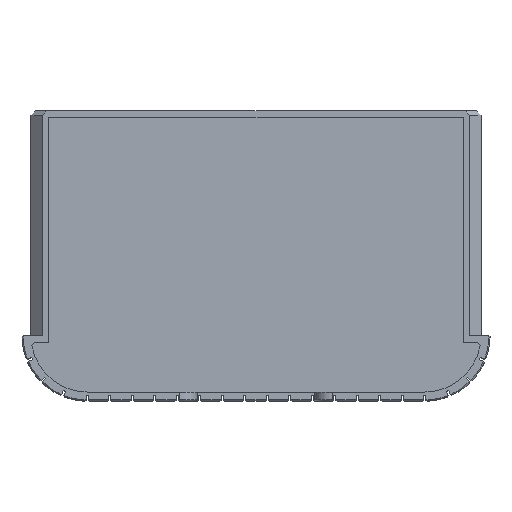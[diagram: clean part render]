
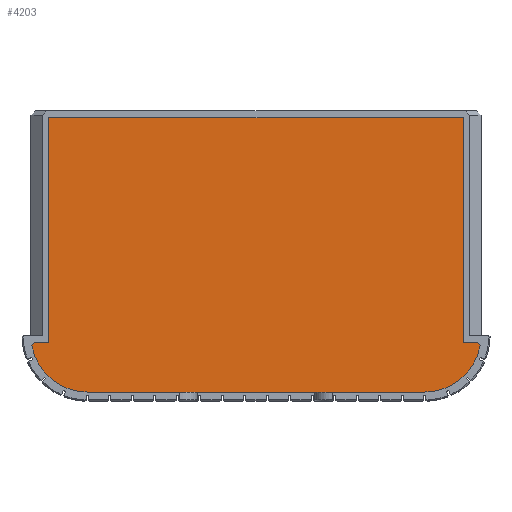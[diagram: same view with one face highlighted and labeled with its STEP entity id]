
A CAD part, top view. The second image highlights one B-rep face of the part: STEP entity #4203.
In plain terms, the highlighted planar face has unit normal (0, 0, 1).
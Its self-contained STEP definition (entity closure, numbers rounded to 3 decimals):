
#151=CIRCLE('',#4494,25.);
#152=CIRCLE('',#4496,25.);
#199=FACE_OUTER_BOUND('',#441,.T.);
#441=EDGE_LOOP('',(#2987,#2988,#2989,#2990,#2991,#2992,#2993,#2994,#2995,
#2996,#2997,#2998));
#857=LINE('',#6326,#1371);
#863=LINE('',#6339,#1377);
#864=LINE('',#6341,#1378);
#865=LINE('',#6343,#1379);
#866=LINE('',#6345,#1380);
#867=LINE('',#6347,#1381);
#868=LINE('',#6349,#1382);
#869=LINE('',#6351,#1383);
#870=LINE('',#6353,#1384);
#871=LINE('',#6356,#1385);
#1371=VECTOR('',#5053,10.);
#1377=VECTOR('',#5065,10.);
#1378=VECTOR('',#5066,10.);
#1379=VECTOR('',#5067,10.);
#1380=VECTOR('',#5068,10.);
#1381=VECTOR('',#5069,10.);
#1382=VECTOR('',#5070,10.);
#1383=VECTOR('',#5071,10.);
#1384=VECTOR('',#5072,10.);
#1385=VECTOR('',#5075,10.);
#1897=VERTEX_POINT('',#6324);
#1898=VERTEX_POINT('',#6325);
#1901=VERTEX_POINT('',#6334);
#1902=VERTEX_POINT('',#6338);
#1903=VERTEX_POINT('',#6340);
#1904=VERTEX_POINT('',#6342);
#1905=VERTEX_POINT('',#6344);
#1906=VERTEX_POINT('',#6346);
#1907=VERTEX_POINT('',#6348);
#1908=VERTEX_POINT('',#6350);
#1909=VERTEX_POINT('',#6352);
#1910=VERTEX_POINT('',#6354);
#2311=EDGE_CURVE('',#1897,#1898,#857,.T.);
#2316=EDGE_CURVE('',#1897,#1901,#151,.T.);
#2318=EDGE_CURVE('',#1898,#1902,#863,.T.);
#2319=EDGE_CURVE('',#1902,#1903,#864,.T.);
#2320=EDGE_CURVE('',#1903,#1904,#865,.T.);
#2321=EDGE_CURVE('',#1904,#1905,#866,.T.);
#2322=EDGE_CURVE('',#1905,#1906,#867,.T.);
#2323=EDGE_CURVE('',#1906,#1907,#868,.T.);
#2324=EDGE_CURVE('',#1907,#1908,#869,.T.);
#2325=EDGE_CURVE('',#1908,#1909,#870,.T.);
#2326=EDGE_CURVE('',#1910,#1909,#152,.T.);
#2327=EDGE_CURVE('',#1901,#1910,#871,.T.);
#2987=ORIENTED_EDGE('',*,*,#2311,.T.);
#2988=ORIENTED_EDGE('',*,*,#2318,.T.);
#2989=ORIENTED_EDGE('',*,*,#2319,.T.);
#2990=ORIENTED_EDGE('',*,*,#2320,.T.);
#2991=ORIENTED_EDGE('',*,*,#2321,.T.);
#2992=ORIENTED_EDGE('',*,*,#2322,.T.);
#2993=ORIENTED_EDGE('',*,*,#2323,.T.);
#2994=ORIENTED_EDGE('',*,*,#2324,.T.);
#2995=ORIENTED_EDGE('',*,*,#2325,.T.);
#2996=ORIENTED_EDGE('',*,*,#2326,.F.);
#2997=ORIENTED_EDGE('',*,*,#2327,.F.);
#2998=ORIENTED_EDGE('',*,*,#2316,.F.);
#3998=PLANE('',#4495);
#4203=ADVANCED_FACE('',(#199),#3998,.F.);
#4494=AXIS2_PLACEMENT_3D('',#6335,#5060,#5061);
#4495=AXIS2_PLACEMENT_3D('',#6337,#5063,#5064);
#4496=AXIS2_PLACEMENT_3D('',#6355,#5073,#5074);
#5053=DIRECTION('',(-0.663,0.748,0.));
#5060=DIRECTION('center_axis',(0.,0.,-1.));
#5061=DIRECTION('ref_axis',(0.,-1.,0.));
#5063=DIRECTION('center_axis',(0.,0.,-1.));
#5064=DIRECTION('ref_axis',(1.,0.,0.));
#5065=DIRECTION('',(-1.,0.,0.));
#5066=DIRECTION('',(0.,1.,0.));
#5067=DIRECTION('',(-0.707,0.707,0.));
#5068=DIRECTION('',(-1.,0.,0.));
#5069=DIRECTION('',(-0.707,-0.707,0.));
#5070=DIRECTION('',(0.,-1.,0.));
#5071=DIRECTION('',(-1.,0.,0.));
#5072=DIRECTION('',(-0.663,-0.748,0.));
#5073=DIRECTION('center_axis',(0.,0.,-1.));
#5074=DIRECTION('ref_axis',(-1.,0.,0.));
#5075=DIRECTION('',(-1.,0.,0.));
#6324=CARTESIAN_POINT('',(99.596,-4.478,1.5));
#6325=CARTESIAN_POINT('',(96.955,-1.5,1.5));
#6326=CARTESIAN_POINT('',(66.6,32.738,1.5));
#6334=CARTESIAN_POINT('',(75.,-25.,1.5));
#6335=CARTESIAN_POINT('Origin',(75.,0.,1.5));
#6337=CARTESIAN_POINT('Origin',(0.,37.5,
1.5));
#6338=CARTESIAN_POINT('',(93.5,-1.5,1.5));
#6339=CARTESIAN_POINT('',(46.75,-1.5,1.5));
#6340=CARTESIAN_POINT('',(93.5,95.5,1.5));
#6341=CARTESIAN_POINT('',(93.5,68.,1.5));
#6342=CARTESIAN_POINT('',(90.5,98.5,1.5));
#6343=CARTESIAN_POINT('',(83.875,105.125,1.5));
#6344=CARTESIAN_POINT('',(-90.5,98.5,1.5));
#6345=CARTESIAN_POINT('',(-46.75,98.5,1.5));
#6346=CARTESIAN_POINT('',(-93.5,95.5,1.5));
#6347=CARTESIAN_POINT('',(-83.875,105.125,1.5));
#6348=CARTESIAN_POINT('',(-93.5,-1.5,1.5));
#6349=CARTESIAN_POINT('',(-93.5,18.,1.5));
#6350=CARTESIAN_POINT('',(-96.955,-1.5,1.5));
#6351=CARTESIAN_POINT('',(-49.977,-1.5,1.5));
#6352=CARTESIAN_POINT('',(-99.596,-4.478,1.5));
#6353=CARTESIAN_POINT('',(-66.6,32.738,1.5));
#6354=CARTESIAN_POINT('',(-75.,-25.,1.5));
#6355=CARTESIAN_POINT('Origin',(-75.,0.,1.5));
#6356=CARTESIAN_POINT('',(37.5,-25.,1.5));
